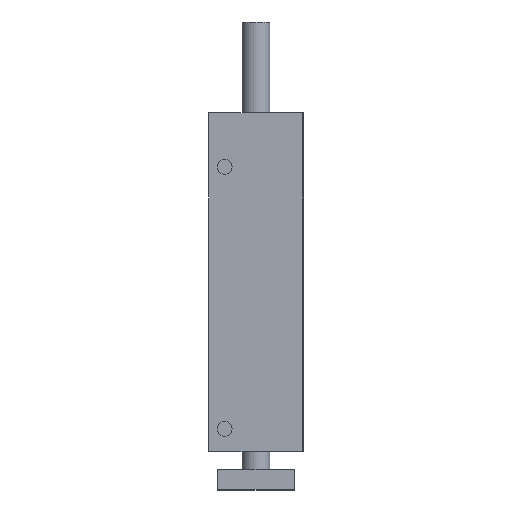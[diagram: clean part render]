
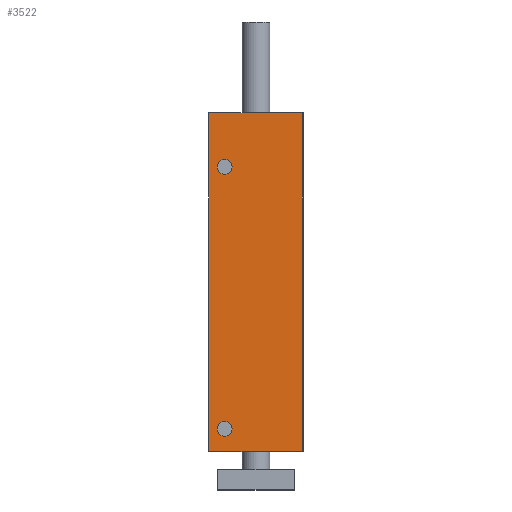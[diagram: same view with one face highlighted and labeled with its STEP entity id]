
A CAD part, front view. The second image highlights one B-rep face of the part: STEP entity #3522.
In plain terms, the highlighted planar face has unit normal (0, -1, 0).
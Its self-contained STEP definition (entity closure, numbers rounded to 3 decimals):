
#255=CARTESIAN_POINT('',(-27.0,-60.0,0.0));
#256=VERTEX_POINT('',#255);
#263=CARTESIAN_POINT('',(-27.0,-60.0,194.0));
#264=VERTEX_POINT('',#263);
#265=CARTESIAN_POINT('',(-27.0,-60.0,0.0));
#266=DIRECTION('',(0.0,0.0,1.0));
#267=VECTOR('',#266,194.0);
#268=LINE('',#265,#267);
#269=EDGE_CURVE('',#256,#264,#268,.T.);
#971=CARTESIAN_POINT('',(26.5,-60.0,0.0));
#972=VERTEX_POINT('',#971);
#979=CARTESIAN_POINT('',(-27.0,-60.0,0.0));
#980=DIRECTION('',(1.0,0.0,0.0));
#981=VECTOR('',#980,53.5);
#982=LINE('',#979,#981);
#983=EDGE_CURVE('',#256,#972,#982,.T.);
#2359=CARTESIAN_POINT('',(-13.717,-60.0,163.0));
#2360=VERTEX_POINT('',#2359);
#2361=CARTESIAN_POINT('',(-18.0,-60.0,163.0));
#2362=DIRECTION('',(0.0,1.0,0.0));
#2363=DIRECTION('',(1.0,0.0,0.0));
#2364=AXIS2_PLACEMENT_3D('',#2361,#2362,#2363);
#2365=CIRCLE('',#2364,4.283);
#2366=EDGE_CURVE('',#2360,#2360,#2365,.T.);
#2396=CARTESIAN_POINT('',(-13.717,-60.0,13.));
#2397=VERTEX_POINT('',#2396);
#2398=CARTESIAN_POINT('',(-18.0,-60.0,13.));
#2399=DIRECTION('',(0.0,1.0,0.0));
#2400=DIRECTION('',(1.0,0.0,0.0));
#2401=AXIS2_PLACEMENT_3D('',#2398,#2399,#2400);
#2402=CIRCLE('',#2401,4.283);
#2403=EDGE_CURVE('',#2397,#2397,#2402,.T.);
#3481=CARTESIAN_POINT('',(26.5,-60.0,194.0));
#3482=VERTEX_POINT('',#3481);
#3489=CARTESIAN_POINT('',(26.5,-60.0,0.0));
#3490=DIRECTION('',(0.0,0.0,1.0));
#3491=VECTOR('',#3490,194.0);
#3492=LINE('',#3489,#3491);
#3493=EDGE_CURVE('',#972,#3482,#3492,.T.);
#3500=CARTESIAN_POINT('',(26.5,-60.0,0.0));
#3501=DIRECTION('',(0.0,-1.0,0.0));
#3502=DIRECTION('',(0.0,0.0,-1.0));
#3503=AXIS2_PLACEMENT_3D('',#3500,#3501,#3502);
#3504=PLANE('',#3503);
#3505=CARTESIAN_POINT('',(26.5,-60.0,194.0));
#3506=DIRECTION('',(-1.0,0.0,0.0));
#3507=VECTOR('',#3506,53.5);
#3508=LINE('',#3505,#3507);
#3509=EDGE_CURVE('',#3482,#264,#3508,.T.);
#3510=ORIENTED_EDGE('',*,*,#3509,.T.);
#3511=ORIENTED_EDGE('',*,*,#269,.F.);
#3512=ORIENTED_EDGE('',*,*,#983,.T.);
#3513=ORIENTED_EDGE('',*,*,#3493,.T.);
#3514=EDGE_LOOP('',(#3510,#3511,#3512,#3513));
#3515=FACE_OUTER_BOUND('',#3514,.T.);
#3516=ORIENTED_EDGE('',*,*,#2366,.T.);
#3517=EDGE_LOOP('',(#3516));
#3518=FACE_BOUND('',#3517,.T.);
#3519=ORIENTED_EDGE('',*,*,#2403,.T.);
#3520=EDGE_LOOP('',(#3519));
#3521=FACE_BOUND('',#3520,.T.);
#3522=ADVANCED_FACE('',(#3515,#3518,#3521),#3504,.T.);
